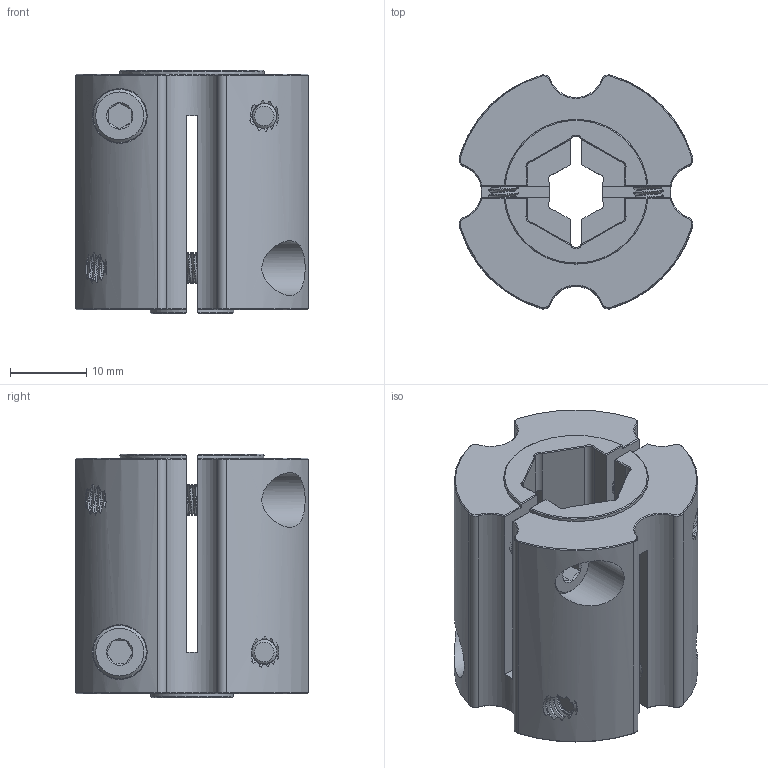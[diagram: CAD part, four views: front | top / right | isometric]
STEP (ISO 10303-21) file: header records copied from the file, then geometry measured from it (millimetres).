
FILE_DESCRIPTION(/* description */ ('STEP AP203'),/* implementation_level */ '2;1');
FILE_NAME(/* name */ '4007-2500-4008.step',/* time_stamp */ '2025-09-12T16:11:17-05:00',/* author */ (''),/* organization */ (''),/* preprocessor_version */ 'ST-DEVELOPER v20.1',/* originating_system */ 'Autodesk Translation Framework v14.17.0.0',/* authorisation */ '');
FILE_SCHEMA (('AUTOMOTIVE_DESIGN { 1 0 10303 214 3 1 1 }'));
Products named in the file (2): 4007-2500-4008-REV0-assembly; 2800-0004-0016
Assembly tree (4 placements, depth 2):
  4007-2500-4008-REV0-assembly
    2800-0004-0016  x4
Bounding box: 30.74 x 30.74 x 32 mm (x, y, z)
Volume: 17793.3 mm3; surface area: 10532.6 mm2
Topology: 5 solids, 5 shells, 636 faces, 1720 edges, 1104 vertices
Faces by surface type: cylinder 394, plane 112, cone 86, bspline 44
Full cylindrical faces by diameter (mm): 3.091 x88, 3.3 x60, 4 x144, 4.1 x4, 7 x4, 7.2 x4
Entity records: 66083 total; most frequent: CARTESIAN_POINT 56371, ORIENTED_EDGE 2330, DIRECTION 1568, EDGE_CURVE 1165, VERTEX_POINT 747, AXIS2_PLACEMENT_3D 584, B_SPLINE_CURVE_WITH_KNOTS 545, EDGE_LOOP 448
